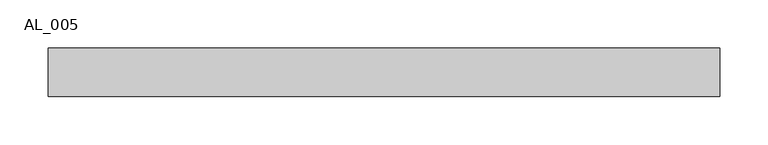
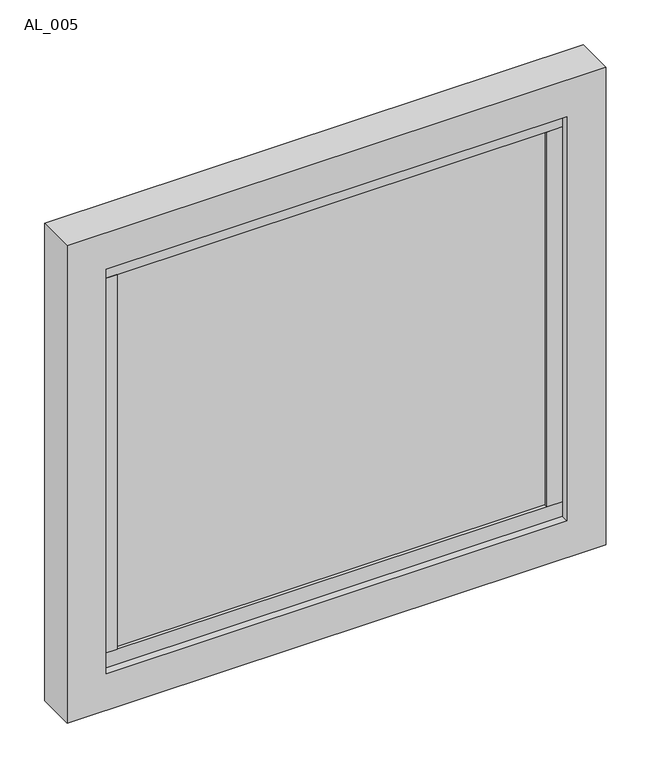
"""IFC4 building model written with IfcOpenShell, lengths in millimetres: plate geometry, TRP_CP_ARC_PF_RE : AL_005."""

from ifc_helpers import new_model, si_unit, frame, origin, place, context, project, spatial, polyline, outline, extrude, source, transform, mapped, element, save


def al_005_61ed1d0d(model_context):
    return source(origin(), model_context, "Body", "SweptSolid", [
        extrude(outline(polyline([(276.9621663, -10.0), (-276.9621663, -10.0), (-276.9621663, 10.0), (276.9621663, 10.0), (276.9621663, -10.0)])), frame((0.0, 0.0, 70.0), z_axis=(0.0, 0.0, 1.0), x_axis=(1.0, 0.0, 0.0)), (0.0, 0.0, 1.0), 509.970898),
        extrude(outline(polyline([(296.9621663, -15.0), (276.9621663, -15.0), (276.9621663, 15.0), (296.9621663, 15.0), (296.9621663, -15.0)])), frame((0.0, 0.0, 70.0), z_axis=(0.0, 0.0, 1.0), x_axis=(1.0, 0.0, 0.0)), (0.0, 0.0, 1.0), 509.970898),
        extrude(outline(polyline([(-276.9621663, -15.0), (-296.9621663, -15.0), (-296.9621663, 15.0), (-276.9621663, 15.0), (-276.9621663, -15.0)])), frame((0.0, 0.0, 70.0), z_axis=(0.0, 0.0, 1.0), x_axis=(1.0, 0.0, 0.0)), (0.0, 0.0, 1.0), 509.970898),
        extrude(outline(polyline([(296.9621663, -15.0), (-296.9621663, -15.0), (-296.9621663, 15.0), (296.9621663, 15.0), (296.9621663, -15.0)])), frame((0.0, 0.0, 50.0), z_axis=(0.0, 0.0, 1.0), x_axis=(1.0, 0.0, 0.0)), (0.0, 0.0, 1.0), 20.0),
        extrude(outline(polyline([(296.9621663, -15.0), (-296.9621663, -15.0), (-296.9621663, 15.0), (296.9621663, 15.0), (296.9621663, -15.0)])), frame((0.0, 0.0, 579.970898), z_axis=(0.0, 0.0, 1.0), x_axis=(1.0, 0.0, 0.0)), (0.0, 0.0, 1.0), 20.0),
        extrude(outline(polyline([(649.970898, 346.9621663), (649.970898, -346.9621663), (0.0, -346.9621663), (0.0, 346.9621663), (649.970898, 346.9621663)]), holes=[polyline([(50.0, 296.9621663), (50.0, -296.9621663), (599.970898, -296.9621663), (599.970898, 296.9621663), (50.0, 296.9621663)])]), frame((0.0, -25.0, 0.0), z_axis=(0.0, 1.0, 0.0), x_axis=(0.0, 0.0, 1.0)), (0.0, 0.0, 1.0), 50.0),
    ])


if __name__ == "__main__":
    model = new_model("IFC4")
    model_context = context("Model", 3, world=origin())
    ifc_project = project(units=[si_unit("LENGTHUNIT", "METRE", prefix="MILLI")], contexts=[model_context])
    site = spatial("IfcSite", under=ifc_project)
    building = spatial("IfcBuilding", under=site)
    placement = place(None, origin())
    al_005_shape = al_005_61ed1d0d(model_context)
    element("IfcPlate", 1, ObjectType="TRP_CP_ARC_PF_RE : AL_005", at=placement, inside=building, context=model_context, shape_type="MappedRepresentation", body=[
        mapped(al_005_shape, transform((0.0, 0.0, 0.0), x_axis=(1.0, 0.0, 0.0), y_axis=(0.0, 1.0, 0.0), z_axis=(0.0, 0.0, 1.0))),
    ])
    save(model, "model.ifc")
